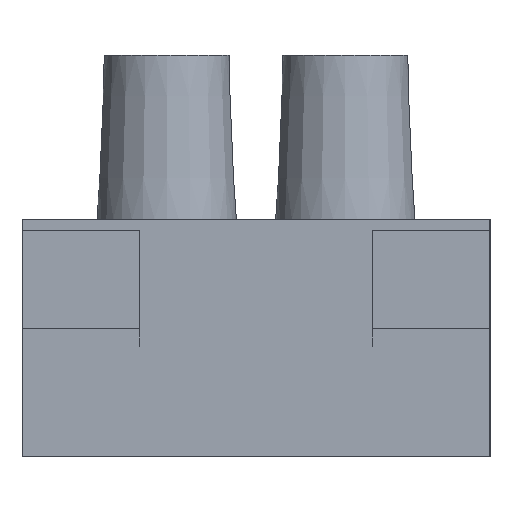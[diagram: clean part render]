
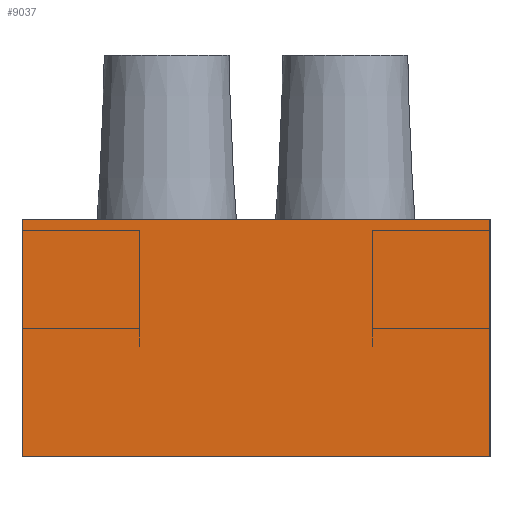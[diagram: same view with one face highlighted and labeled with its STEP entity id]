
A CAD part, left-side view. The second image highlights one B-rep face of the part: STEP entity #9037.
In plain terms, the highlighted planar face has unit normal (-1, 0, 0).
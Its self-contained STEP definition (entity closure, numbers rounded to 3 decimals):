
#360=LINE('',#13699,#1300);
#366=LINE('',#13711,#1306);
#371=LINE('',#13723,#1311);
#376=LINE('',#13735,#1316);
#1300=VECTOR('',#10890,1000.);
#1306=VECTOR('',#10898,1000.);
#1311=VECTOR('',#10907,1000.);
#1316=VECTOR('',#10916,1000.);
#2407=ORIENTED_EDGE('',*,*,#4817,.T.);
#2408=ORIENTED_EDGE('',*,*,#4823,.F.);
#2409=ORIENTED_EDGE('',*,*,#4811,.F.);
#2410=ORIENTED_EDGE('',*,*,#4805,.T.);
#4805=EDGE_CURVE('',#6023,#6022,#360,.T.);
#4811=EDGE_CURVE('',#6023,#6028,#366,.T.);
#4817=EDGE_CURVE('',#6022,#6033,#371,.T.);
#4823=EDGE_CURVE('',#6028,#6033,#376,.T.);
#6022=VERTEX_POINT('',#13698);
#6023=VERTEX_POINT('',#13700);
#6028=VERTEX_POINT('',#13712);
#6033=VERTEX_POINT('',#13724);
#7082=EDGE_LOOP('',(#2407,#2408,#2409,#2410));
#7842=FACE_BOUND('',#7082,.T.);
#8578=PLANE('',#9657);
#9037=ADVANCED_FACE('',(#7842),#8578,.F.);
#9657=AXIS2_PLACEMENT_3D('',#13734,#10914,#10915);
#10890=DIRECTION('',(0.,-1.,0.));
#10898=DIRECTION('',(0.,0.,1.));
#10907=DIRECTION('',(0.,0.,1.));
#10914=DIRECTION('',(1.,0.,0.));
#10915=DIRECTION('',(0.,0.,-1.));
#10916=DIRECTION('',(0.,-1.,0.));
#13698=CARTESIAN_POINT('',(-5.,-13.1,-6.65));
#13699=CARTESIAN_POINT('',(-5.,13.1,-6.65));
#13700=CARTESIAN_POINT('',(-5.,13.1,-6.65));
#13711=CARTESIAN_POINT('',(-5.,13.1,-6.65));
#13712=CARTESIAN_POINT('',(-5.,13.1,6.65));
#13723=CARTESIAN_POINT('',(-5.,-13.1,-6.65));
#13724=CARTESIAN_POINT('',(-5.,-13.1,6.65));
#13734=CARTESIAN_POINT('',(-5.,13.1,-6.65));
#13735=CARTESIAN_POINT('',(-5.,13.1,6.65));
